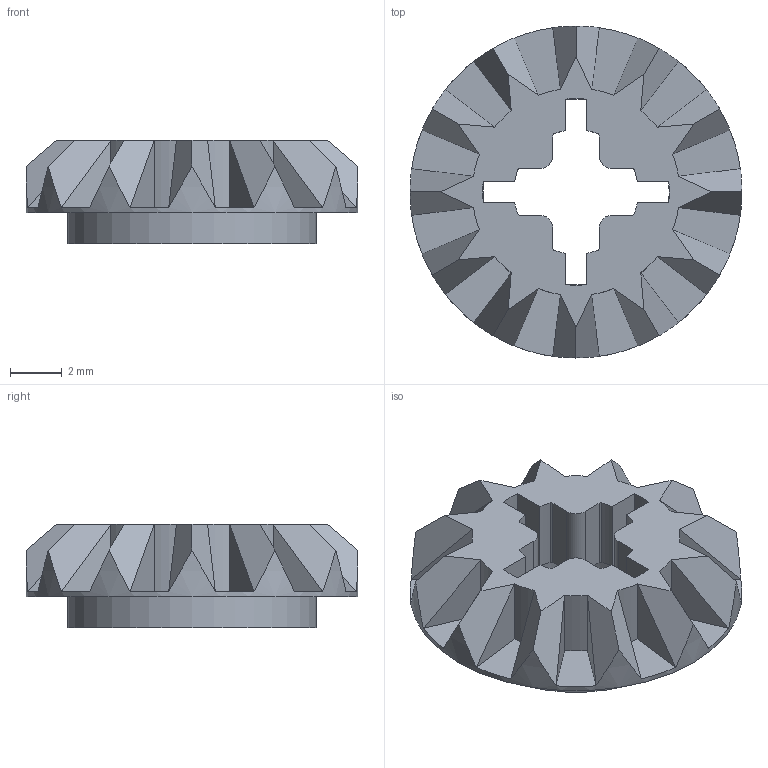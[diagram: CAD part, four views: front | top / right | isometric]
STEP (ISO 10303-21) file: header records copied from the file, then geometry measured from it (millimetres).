
FILE_DESCRIPTION(/* description */ ('Unknown'),/* implementation_level */ '2;1');
FILE_NAME(/* name */ 'Sand_4565452_AVV',/* time_stamp */ '2025-07-22T00:04:42+02:00',/* author */ ('Unknown'),/* organization */ ('Unknown'),/* preprocessor_version */ 'ST-DEVELOPER v19.4',/* originating_system */ 'Solid Edge',/* authorisation */ 'Unknown');
FILE_SCHEMA (('AUTOMOTIVE_DESIGN {1 0 10303 214 3 1 1}'));
Length unit declared in the file: millimetre
Products named in the file (1): Sand_4565452_AVV
Bounding box: 12.8 x 12.8 x 4 mm (x, y, z)
Volume: 223.3 mm3; surface area: 531.5 mm2
Topology: 1 solids, 1 shells, 118 faces, 296 edges, 181 vertices
Faces by surface type: plane 83, cylinder 35
Full cylindrical faces by diameter (mm): 7.2 x1, 9.6 x1, 12.8 x1
Entity records: 3510 total; most frequent: DIRECTION 642, CARTESIAN_POINT 591, ORIENTED_EDGE 584, EDGE_CURVE 292, AXIS2_PLACEMENT_3D 231, VERTEX_POINT 180, LINE 180, VECTOR 180
